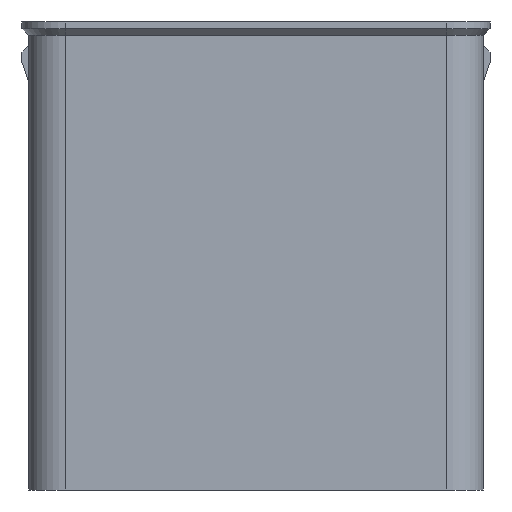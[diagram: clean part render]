
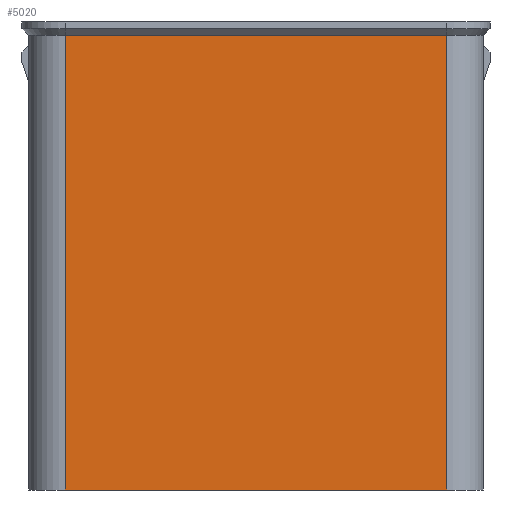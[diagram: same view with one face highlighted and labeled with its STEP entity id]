
A CAD part, left-side view. The second image highlights one B-rep face of the part: STEP entity #5020.
In plain terms, the highlighted planar face has unit normal (-1, 0, 0).
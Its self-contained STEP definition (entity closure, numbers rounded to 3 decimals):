
#1528 = PLANE('',#1529);
#1529 = AXIS2_PLACEMENT_3D('',#1530,#1531,#1532);
#1530 = CARTESIAN_POINT('',(132.25,29.5,99.));
#1531 = DIRECTION('',(-0.707,0.,-0.707));
#1532 = DIRECTION('',(0.,-1.,-0.));
#1792 = PLANE('',#1793);
#1793 = AXIS2_PLACEMENT_3D('',#1794,#1795,#1796);
#1794 = CARTESIAN_POINT('',(133.25,30.5,30.));
#1795 = DIRECTION('',(0.,0.,1.));
#1796 = DIRECTION('',(1.,0.,0.));
#1818 = CYLINDRICAL_SURFACE('',#1819,5.5);
#1819 = AXIS2_PLACEMENT_3D('',#1820,#1821,#1822);
#1820 = CARTESIAN_POINT('',(138.75,93.,30.));
#1821 = DIRECTION('',(0.,0.,1.));
#1822 = DIRECTION('',(-1.,-0.,0.));
#3566 = CYLINDRICAL_SURFACE('',#3567,5.5);
#3567 = AXIS2_PLACEMENT_3D('',#3568,#3569,#3570);
#3568 = CARTESIAN_POINT('',(138.75,36.,30.));
#3569 = DIRECTION('',(0.,0.,1.));
#3570 = DIRECTION('',(-1.,-0.,0.));
#3707 = EDGE_CURVE('',#3708,#3710,#3712,.T.);
#3708 = VERTEX_POINT('',#3709);
#3709 = CARTESIAN_POINT('',(133.25,36.,98.));
#3710 = VERTEX_POINT('',#3711);
#3711 = CARTESIAN_POINT('',(133.25,93.,98.));
#3712 = SURFACE_CURVE('',#3713,(#3717,#3724),.PCURVE_S1.);
#3713 = LINE('',#3714,#3715);
#3714 = CARTESIAN_POINT('',(133.25,30.5,98.));
#3715 = VECTOR('',#3716,1.);
#3716 = DIRECTION('',(0.,1.,0.));
#3717 = PCURVE('',#1528,#3718);
#3718 = DEFINITIONAL_REPRESENTATION('',(#3719),#3723);
#3719 = LINE('',#3720,#3721);
#3720 = CARTESIAN_POINT('',(-1.,-1.414));
#3721 = VECTOR('',#3722,1.);
#3722 = DIRECTION('',(-1.,0.));
#3723 = ( GEOMETRIC_REPRESENTATION_CONTEXT(2) 
PARAMETRIC_REPRESENTATION_CONTEXT() REPRESENTATION_CONTEXT('2D SPACE',''
  ) );
#3724 = PCURVE('',#3725,#3730);
#3725 = PLANE('',#3726);
#3726 = AXIS2_PLACEMENT_3D('',#3727,#3728,#3729);
#3727 = CARTESIAN_POINT('',(133.25,30.5,30.));
#3728 = DIRECTION('',(1.,0.,0.));
#3729 = DIRECTION('',(0.,0.,1.));
#3730 = DEFINITIONAL_REPRESENTATION('',(#3731),#3735);
#3731 = LINE('',#3732,#3733);
#3732 = CARTESIAN_POINT('',(68.,0.));
#3733 = VECTOR('',#3734,1.);
#3734 = DIRECTION('',(0.,-1.));
#3735 = ( GEOMETRIC_REPRESENTATION_CONTEXT(2) 
PARAMETRIC_REPRESENTATION_CONTEXT() REPRESENTATION_CONTEXT('2D SPACE',''
  ) );
#3833 = EDGE_CURVE('',#3834,#3836,#3838,.T.);
#3834 = VERTEX_POINT('',#3835);
#3835 = CARTESIAN_POINT('',(133.25,36.,30.));
#3836 = VERTEX_POINT('',#3837);
#3837 = CARTESIAN_POINT('',(133.25,93.,30.));
#3838 = SURFACE_CURVE('',#3839,(#3843,#3850),.PCURVE_S1.);
#3839 = LINE('',#3840,#3841);
#3840 = CARTESIAN_POINT('',(133.25,30.5,30.));
#3841 = VECTOR('',#3842,1.);
#3842 = DIRECTION('',(0.,1.,0.));
#3843 = PCURVE('',#1792,#3844);
#3844 = DEFINITIONAL_REPRESENTATION('',(#3845),#3849);
#3845 = LINE('',#3846,#3847);
#3846 = CARTESIAN_POINT('',(0.,0.));
#3847 = VECTOR('',#3848,1.);
#3848 = DIRECTION('',(0.,1.));
#3849 = ( GEOMETRIC_REPRESENTATION_CONTEXT(2) 
PARAMETRIC_REPRESENTATION_CONTEXT() REPRESENTATION_CONTEXT('2D SPACE',''
  ) );
#3850 = PCURVE('',#3725,#3851);
#3851 = DEFINITIONAL_REPRESENTATION('',(#3852),#3856);
#3852 = LINE('',#3853,#3854);
#3853 = CARTESIAN_POINT('',(0.,0.));
#3854 = VECTOR('',#3855,1.);
#3855 = DIRECTION('',(0.,-1.));
#3856 = ( GEOMETRIC_REPRESENTATION_CONTEXT(2) 
PARAMETRIC_REPRESENTATION_CONTEXT() REPRESENTATION_CONTEXT('2D SPACE',''
  ) );
#4166 = EDGE_CURVE('',#3836,#3710,#4167,.T.);
#4167 = SURFACE_CURVE('',#4168,(#4172,#4179),.PCURVE_S1.);
#4168 = LINE('',#4169,#4170);
#4169 = CARTESIAN_POINT('',(133.25,93.,30.));
#4170 = VECTOR('',#4171,1.);
#4171 = DIRECTION('',(0.,0.,1.));
#4172 = PCURVE('',#1818,#4173);
#4173 = DEFINITIONAL_REPRESENTATION('',(#4174),#4178);
#4174 = LINE('',#4175,#4176);
#4175 = CARTESIAN_POINT('',(-0.,0.));
#4176 = VECTOR('',#4177,1.);
#4177 = DIRECTION('',(-0.,1.));
#4178 = ( GEOMETRIC_REPRESENTATION_CONTEXT(2) 
PARAMETRIC_REPRESENTATION_CONTEXT() REPRESENTATION_CONTEXT('2D SPACE',''
  ) );
#4179 = PCURVE('',#3725,#4180);
#4180 = DEFINITIONAL_REPRESENTATION('',(#4181),#4185);
#4181 = LINE('',#4182,#4183);
#4182 = CARTESIAN_POINT('',(0.,-62.5));
#4183 = VECTOR('',#4184,1.);
#4184 = DIRECTION('',(1.,0.));
#4185 = ( GEOMETRIC_REPRESENTATION_CONTEXT(2) 
PARAMETRIC_REPRESENTATION_CONTEXT() REPRESENTATION_CONTEXT('2D SPACE',''
  ) );
#4997 = EDGE_CURVE('',#3834,#3708,#4998,.T.);
#4998 = SURFACE_CURVE('',#4999,(#5003,#5010),.PCURVE_S1.);
#4999 = LINE('',#5000,#5001);
#5000 = CARTESIAN_POINT('',(133.25,36.,30.));
#5001 = VECTOR('',#5002,1.);
#5002 = DIRECTION('',(0.,0.,1.));
#5003 = PCURVE('',#3566,#5004);
#5004 = DEFINITIONAL_REPRESENTATION('',(#5005),#5009);
#5005 = LINE('',#5006,#5007);
#5006 = CARTESIAN_POINT('',(0.,0.));
#5007 = VECTOR('',#5008,1.);
#5008 = DIRECTION('',(0.,1.));
#5009 = ( GEOMETRIC_REPRESENTATION_CONTEXT(2) 
PARAMETRIC_REPRESENTATION_CONTEXT() REPRESENTATION_CONTEXT('2D SPACE',''
  ) );
#5010 = PCURVE('',#3725,#5011);
#5011 = DEFINITIONAL_REPRESENTATION('',(#5012),#5016);
#5012 = LINE('',#5013,#5014);
#5013 = CARTESIAN_POINT('',(0.,-5.5));
#5014 = VECTOR('',#5015,1.);
#5015 = DIRECTION('',(1.,0.));
#5016 = ( GEOMETRIC_REPRESENTATION_CONTEXT(2) 
PARAMETRIC_REPRESENTATION_CONTEXT() REPRESENTATION_CONTEXT('2D SPACE',''
  ) );
#5020 = ADVANCED_FACE('',(#5021),#3725,.F.);
#5021 = FACE_BOUND('',#5022,.F.);
#5022 = EDGE_LOOP('',(#5023,#5024,#5025,#5026));
#5023 = ORIENTED_EDGE('',*,*,#3707,.F.);
#5024 = ORIENTED_EDGE('',*,*,#4997,.F.);
#5025 = ORIENTED_EDGE('',*,*,#3833,.T.);
#5026 = ORIENTED_EDGE('',*,*,#4166,.T.);
